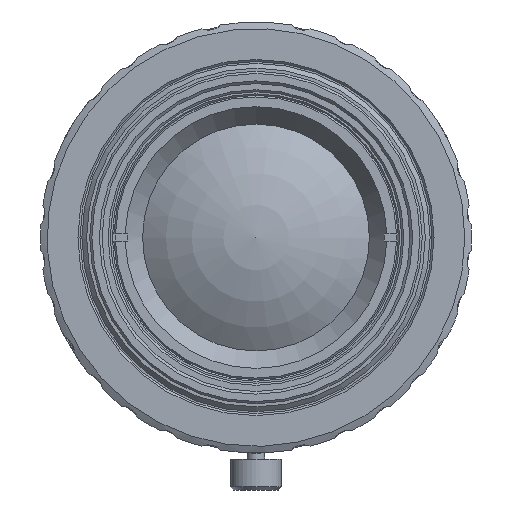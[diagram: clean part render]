
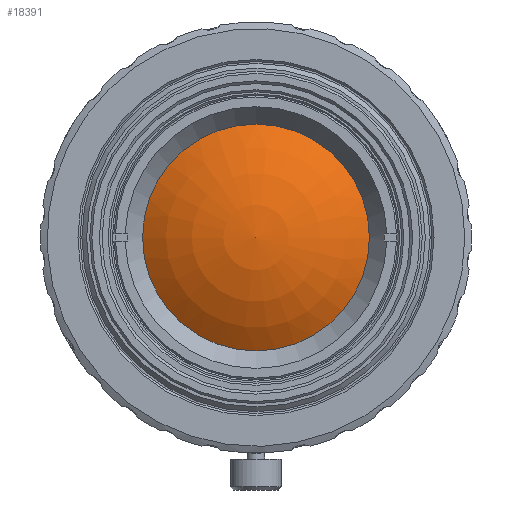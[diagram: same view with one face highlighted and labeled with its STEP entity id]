
A CAD part, front view. The second image highlights one B-rep face of the part: STEP entity #18391.
In plain terms, the highlighted toroidal (fillet/blend) face has major radius 0 mm and minor radius 19.09 mm.
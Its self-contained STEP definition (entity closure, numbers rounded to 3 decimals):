
#38=VERTEX_LOOP('',#9280);
#40=DEGENERATE_TOROIDAL_SURFACE('',#19819,0.,19.09,.F.);
#2813=CIRCLE('',#19820,11.1);
#6284=ORIENTED_EDGE('',*,*,#8063,.T.);
#8063=EDGE_CURVE('',#9281,#9281,#2813,.T.);
#9280=VERTEX_POINT('',#28619);
#9281=VERTEX_POINT('',#28621);
#10688=EDGE_LOOP('',(#6284));
#11759=FACE_BOUND('',#38,.T.);
#11760=FACE_BOUND('',#10688,.T.);
#18391=ADVANCED_FACE('',(#11759,#11760),#40,.F.);
#19819=AXIS2_PLACEMENT_3D('',#28618,#23408,#23409);
#19820=AXIS2_PLACEMENT_3D('',#28620,#23410,#23411);
#23408=DIRECTION('',(0.,-1.,0.));
#23409=DIRECTION('',(1.,0.,0.));
#23410=DIRECTION('',(0.,-1.,0.));
#23411=DIRECTION('',(0.,0.,-1.));
#28618=CARTESIAN_POINT('',(0.,-59.095,0.));
#28619=CARTESIAN_POINT('',(0.,-78.185,0.));
#28620=CARTESIAN_POINT('',(0.,-74.626,0.));
#28621=CARTESIAN_POINT('',(0.,-74.626,-11.1));
